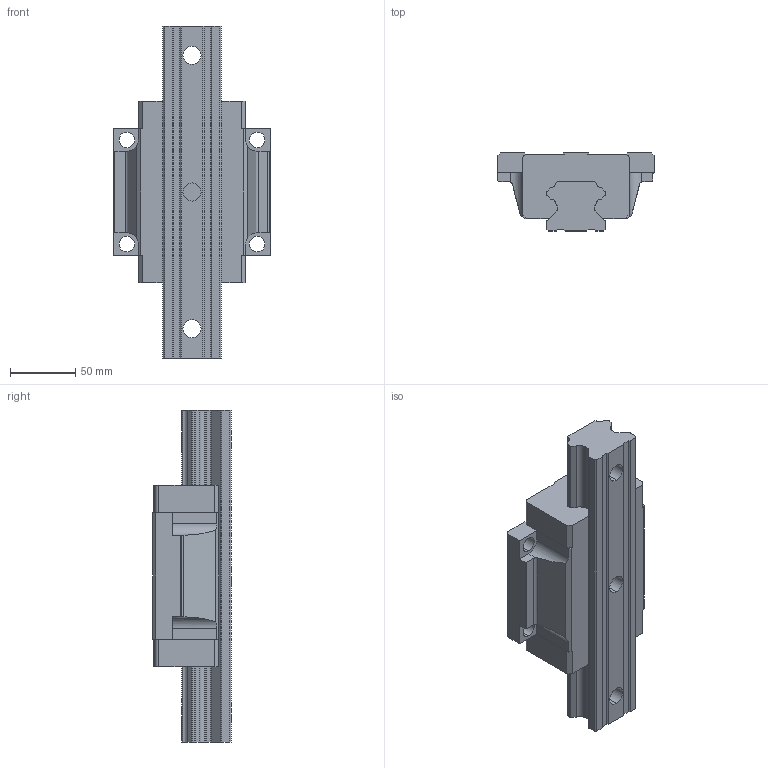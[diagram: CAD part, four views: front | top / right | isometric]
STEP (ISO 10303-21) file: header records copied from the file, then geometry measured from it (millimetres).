
FILE_DESCRIPTION (( 'STEP AP214' ), '1' );
FILE_NAME ('2.1006 Lineaarikelkka HGW45CC.STEP', '2024-04-25T12:40:00', ( '' ), ( '' ), 'SwSTEP 2.0', 'SolidWorks 2024', '' );
FILE_SCHEMA (( 'AUTOMOTIVE_DESIGN' ));
Length unit declared in the file: millimetre
Products named in the file (1): 2.1006 Lineaarikelkka HGW45CC
Bounding box: 120 x 60 x 255 mm (x, y, z)
Volume: 845863.9 mm3; surface area: 112670 mm2
Topology: 2 solids, 2 shells, 164 faces, 471 edges, 314 vertices
Faces by surface type: plane 106, cylinder 58
Entity records: 7291 total; most frequent: CARTESIAN_POINT 1042, ORIENTED_EDGE 942, DIRECTION 901, EDGE_CURVE 471, VECTOR 347, LINE 347, VERTEX_POINT 314, AXIS2_PLACEMENT_3D 277
